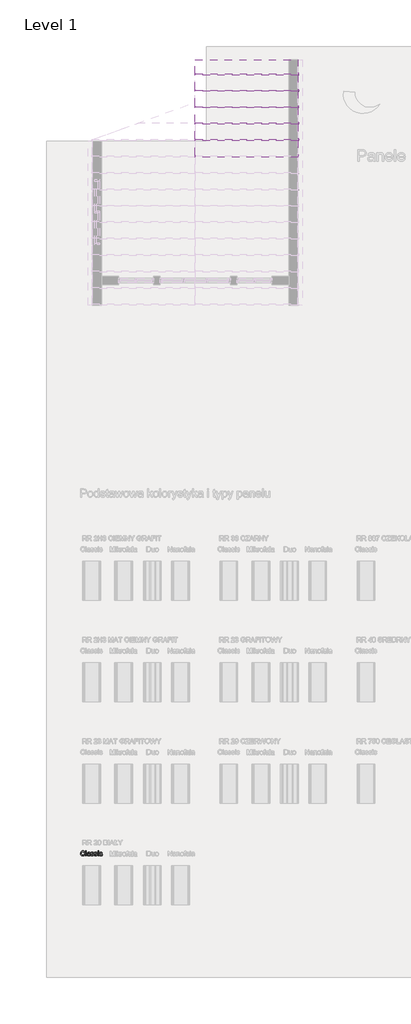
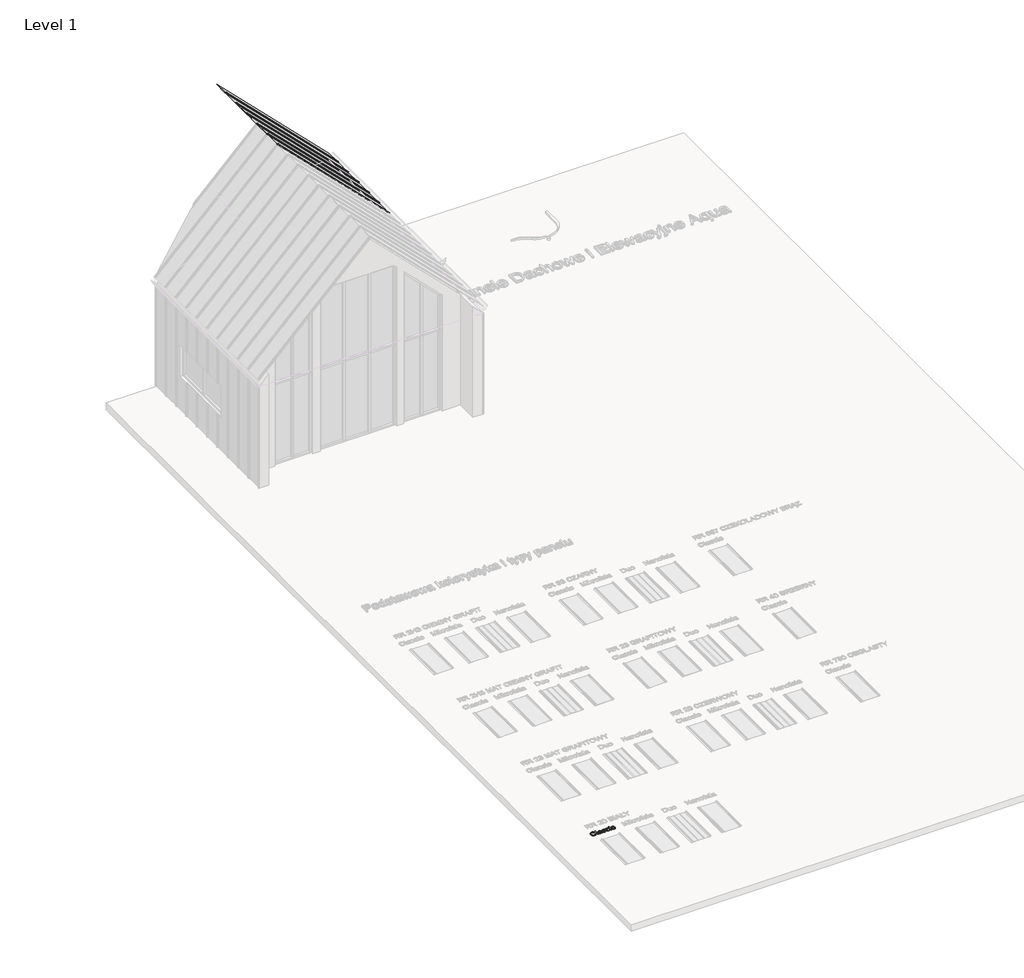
# One storey, part 7 of 22: 15 proxies.
"""IFC4 building model written with IfcOpenShell, lengths in millimetres."""

from ifc_helpers import new_model, si_unit, point, frame, frame_2d, origin, place, context, project, spatial, polyline, circle_curve, trimmed, segment, composite_curve, outline, extrude, transform, mapped, element, save
from components import aqua_579f6fc6, aqua_49a7eeef

model = new_model("IFC4")

# Units and contexts
model_context = context("Model", 3, world=origin())
ifc_project = project(units=[si_unit("LENGTHUNIT", "METRE", prefix="MILLI")], contexts=[model_context])

# Site, building, storey
site = spatial("IfcSite", under=ifc_project)
building = spatial("IfcBuilding", under=site)
storey = spatial("IfcBuildingStorey", under=building, Name="Level 1", Elevation=0.0)

# Proxies
placement = place(None, origin())
element("IfcBuildingElementProxy", 1, Name="150", ObjectType="150", at=placement, inside=storey, context=model_context, shape_type="SweptSolid", body=[
    extrude(outline(polyline([(-8679.0085992, -8117.1818641), (-8660.1730411, -8122.0379064), (-8668.8642532, -8143.986666), (-8682.5034782, -8160.0217224), (-8700.4193314, -8169.8303761), (-8721.9404281, -8173.0999274), (-8743.7880201, -8170.6259209), (-8761.1382547, -8163.2039017), (-8774.4371888, -8151.091387), (-8784.1308794, -8134.5458943), (-8790.049181, -8115.0941338), (-8792.0219482, -8094.2628158), (-8789.7916636, -8072.2910636), (-8783.1008098, -8053.3175497), (-8772.2988747, -8037.9446809), (-8757.7353462, -8026.7748638), (-8740.4632865, -8019.9736454), (-8721.5357579, -8017.7065726), (-8700.8837824, -8020.6404315), (-8683.8094593, -8029.4420082), (-8670.8462175, -8043.5686769), (-8662.5274859, -8062.4778114), (-8681.363044, -8066.9659718), (-8687.8929494, -8053.2301778), (-8696.8140878, -8043.8078002), (-8708.2368238, -8038.3585481), (-8722.2715219, -8036.5421308), (-8738.4491326, -8038.5562847), (-8751.7388697, -8044.5987464), (-8761.8234349, -8054.0349196), (-8768.38553, -8066.2302078), (-8773.18639, -8094.2260276), (-8771.7654458, -8111.626846), (-8767.5026132, -8126.6732196), (-8760.2369438, -8138.7903328), (-8749.8074892, -8147.40337), (-8737.3040999, -8152.5491194), (-8723.8166263, -8154.2643692), (-8708.0942695, -8151.9283185), (-8694.9930719, -8144.9201665), (-8685.1016448, -8133.3134896), (-8679.0085992, -8117.1818641)])), frame((0.0, 0.0, 600.0), z_axis=(0.0, 0.0, 1.0), x_axis=(1.0, 0.0, 0.0)), (0.0, 0.0, 1.0), 10.0),
    extrude(outline(polyline([(-8636.6285934, -8170.7454826), (-8636.6285934, -8020.0610174), (-8617.7930352, -8020.0610174), (-8617.7930352, -8170.7454826), (-8636.6285934, -8170.7454826)])), frame((0.0, 0.0, 600.0), z_axis=(0.0, 0.0, 1.0), x_axis=(1.0, 0.0, 0.0)), (0.0, 0.0, 1.0), 10.0),
    extrude(outline(polyline([(-8518.9063549, -8156.618814), (-8537.171696, -8169.3843192), (-8557.3500234, -8173.0999274), (-8573.0907743, -8170.8650442), (-8584.7020498, -8164.1603949), (-8591.8619531, -8153.9792607), (-8594.2485875, -8141.314923), (-8590.643344, -8126.4157022), (-8581.1703826, -8115.5999715), (-8567.9818131, -8109.419554), (-8551.6846407, -8106.5868626), (-8519.0167195, -8100.1121395), (-8518.9063549, -8095.9182848), (-8520.203139, -8087.5121812), (-8524.0934911, -8082.0123454), (-8532.7939003, -8077.9288552), (-8544.915612, -8076.5676918), (-8563.9718993, -8080.1913295), (-8573.0585846, -8093.0488052), (-8591.8941428, -8090.6943604), (-8583.7455566, -8072.3002607), (-8567.3380196, -8061.5213182), (-8542.4875908, -8057.7321337), (-8519.660513, -8061.0798598), (-8506.7662491, -8069.4859634), (-8500.9905018, -8082.2698628), (-8500.0707968, -8098.7509761), (-8500.0707968, -8122.1850592), (-8499.1143036, -8154.9081627), (-8495.3619072, -8170.7454826), (-8514.1974654, -8170.7454826), (-8518.9063549, -8156.618814)]), holes=[polyline([(-8518.9063549, -8118.9476977), (-8549.2934077, -8124.723445), (-8565.4986096, -8127.7768656), (-8572.8378554, -8132.7432725), (-8575.4130294, -8139.9905478), (-8569.802829, -8150.1808791), (-8553.3401097, -8154.2643692), (-8534.2838223, -8149.7578148), (-8521.9965637, -8138.8501136), (-8519.0167195, -8124.2819866), (-8518.9063549, -8118.9476977)])]), frame((0.0, 0.0, 600.0), z_axis=(0.0, 0.0, 1.0), x_axis=(1.0, 0.0, 0.0)), (0.0, 0.0, 1.0), 10.0),
    extrude(outline(polyline([(-8481.2352386, -8137.7832558), (-8462.3996805, -8135.4288111), (-8459.4290334, -8143.4854268), (-8453.6808772, -8149.4083269), (-8433.7048849, -8154.2643692), (-8414.5014447, -8149.8129971), (-8408.2474508, -8139.3651484), (-8409.8201463, -8134.5642884), (-8414.5382329, -8130.9038625), (-8433.9256141, -8125.5327854), (-8462.2893159, -8116.3173414), (-8474.668545, -8105.5567931), (-8478.8807939, -8090.3632666), (-8475.4962795, -8076.3285685), (-8466.2624414, -8065.6048084), (-8454.2878825, -8060.0313961), (-8438.0826806, -8057.7321337), (-8415.1636323, -8061.4293477), (-8400.5955053, -8071.435738), (-8394.1207822, -8088.3399157), (-8412.9563403, -8090.6943604), (-8420.0380687, -8080.3016941), (-8436.6111526, -8076.5676918), (-8454.6373704, -8080.1361472), (-8460.0452357, -8088.4502803), (-8457.8011555, -8093.931722), (-8450.7746094, -8098.0887885), (-8434.5510134, -8102.0987023), (-8406.9046815, -8110.9646584), (-8394.0655999, -8121.0078368), (-8389.4118926, -8137.3785856), (-8394.8749403, -8155.4048034), (-8410.6386838, -8168.4830083), (-8433.9624023, -8173.0999274), (-8452.9543103, -8170.8742413), (-8466.8142644, -8164.1971831), (-8476.0664966, -8153.1423291), (-8481.2352386, -8137.7832558)])), frame((0.0, 0.0, 600.0), z_axis=(0.0, 0.0, 1.0), x_axis=(1.0, 0.0, 0.0)), (0.0, 0.0, 1.0), 10.0),
    extrude(outline(polyline([(-8375.285224, -8137.7832558), (-8356.4496659, -8135.4288111), (-8353.4790188, -8143.4854268), (-8347.7308626, -8149.4083269), (-8327.7548702, -8154.2643692), (-8308.5514301, -8149.8129971), (-8302.2974362, -8139.3651484), (-8303.8701317, -8134.5642884), (-8308.5882183, -8130.9038625), (-8327.9755994, -8125.5327854), (-8356.3393013, -8116.3173414), (-8368.7185304, -8105.5567931), (-8372.9307793, -8090.3632666), (-8369.5462649, -8076.3285685), (-8360.3124268, -8065.6048084), (-8348.3378679, -8060.0313961), (-8332.132666, -8057.7321337), (-8309.2136177, -8061.4293477), (-8294.6454907, -8071.435738), (-8288.1707676, -8088.3399157), (-8307.0063257, -8090.6943604), (-8314.0880541, -8080.3016941), (-8330.661138, -8076.5676918), (-8348.6873558, -8080.1361472), (-8354.0952211, -8088.4502803), (-8351.8511409, -8093.931722), (-8344.8245948, -8098.0887885), (-8328.6009988, -8102.0987023), (-8300.9546669, -8110.9646584), (-8288.1155853, -8121.0078368), (-8283.461878, -8137.3785856), (-8288.9249257, -8155.4048034), (-8304.6886691, -8168.4830083), (-8328.0123876, -8173.0999274), (-8347.0042956, -8170.8742413), (-8360.8642498, -8164.1971831), (-8370.116482, -8153.1423291), (-8375.285224, -8137.7832558)])), frame((0.0, 0.0, 600.0), z_axis=(0.0, 0.0, 1.0), x_axis=(1.0, 0.0, 0.0)), (0.0, 0.0, 1.0), 10.0),
    extrude(outline(polyline([(-8262.2718751, -8038.8965755), (-8262.2718751, -8020.0610174), (-8243.4363169, -8020.0610174), (-8243.4363169, -8038.8965755), (-8262.2718751, -8038.8965755)])), frame((0.0, 0.0, 600.0), z_axis=(0.0, 0.0, 1.0), x_axis=(1.0, 0.0, 0.0)), (0.0, 0.0, 1.0), 10.0),
    extrude(outline(polyline([(-8262.2718751, -8170.7454826), (-8262.2718751, -8060.0865784), (-8243.4363169, -8060.0865784), (-8243.4363169, -8170.7454826), (-8262.2718751, -8170.7454826)])), frame((0.0, 0.0, 600.0), z_axis=(0.0, 0.0, 1.0), x_axis=(1.0, 0.0, 0.0)), (0.0, 0.0, 1.0), 10.0),
    extrude(outline(polyline([(-8144.5496366, -8130.7199215), (-8125.7140785, -8133.0743663), (-8130.965594, -8149.8267926), (-8140.8340285, -8162.4865318), (-8154.39048, -8170.4465785), (-8170.7060465, -8173.0999274), (-8190.7418197, -8169.3981148), (-8206.4089941, -8158.2926771), (-8216.5211505, -8140.2710578), (-8219.8918693, -8115.8207007), (-8218.452531, -8099.0590773), (-8214.134516, -8084.532337), (-8206.8688466, -8072.8014999), (-8196.5865449, -8064.427586), (-8184.2854906, -8059.4059968), (-8170.9635639, -8057.7321337), (-8155.0480691, -8060.0313961), (-8142.3239506, -8066.9291836), (-8133.1958786, -8078.0576139), (-8128.0685233, -8093.0488052), (-8146.9040814, -8095.40325), (-8155.6412788, -8081.2949755), (-8170.8164111, -8076.5676918), (-8182.9887066, -8078.8945454), (-8192.6502075, -8085.8751063), (-8198.9547852, -8097.8864535), (-8201.0563111, -8115.3056659), (-8199.0007705, -8132.9594032), (-8192.8341485, -8145.012137), (-8183.3473916, -8151.9513112), (-8171.3314459, -8154.2643692), (-8161.5779745, -8152.8204324), (-8153.5811396, -8148.4886219), (-8147.7640056, -8141.1585731), (-8144.5496366, -8130.7199215)])), frame((0.0, 0.0, 600.0), z_axis=(0.0, 0.0, 1.0), x_axis=(1.0, 0.0, 0.0)), (0.0, 0.0, 1.0), 10.0),
])
element("IfcBuildingElementProxy", 2, Name="AQUAPLAST - Panel Dachowy i Elewacyjny Aqua : Aqua", ObjectType="AQUAPLAST - Panel Dachowy i Elewacyjny Aqua : Aqua", at=placement, inside=storey, context=model_context, shape_type="SweptSolid", body=[
    extrude(outline(polyline([(0.0, 432.2000503), (4454.0, 432.2000503), (4454.0, 0.0), (0.0, 0.0), (0.0, 432.2000503)])), frame((-5287.0692136, 13255.4302375, 6945.9959293), z_axis=(0.7071067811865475, 0.0, 0.7071067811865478), x_axis=(0.7071067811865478, 0.0, -0.7071067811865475)), (0.0, 0.0, 1.0), 0.8),
    extrude(outline(composite_curve([segment(polyline([(1.6, -36.6), (0.8, -40.1), (0.0, -40.1), (0.8000601, -36.6), (0.8000601, -12.7000752)]), True, "CONTINUOUS"), segment(trimmed(circle_curve(frame_2d((1.2999699, -12.7000752)), 0.4999098), [point((0.8000601, -12.7000752))], [point((1.2999699, -12.2001654))], False, "CARTESIAN"), True, "CONTINUOUS"), segment(polyline([(1.2999699, -12.2001654), (23.7003195, -12.2001654)]), True, "CONTINUOUS"), segment(trimmed(circle_curve(frame_2d((23.7003195, -11.6998422)), 0.5003233), [point((23.7003195, -12.2001654))], [point((24.2006428, -11.6998422))], True, "CARTESIAN"), True, "CONTINUOUS"), segment(polyline([(24.2006428, -11.6998422), (24.2006428, -1.2033228)]), True, "CONTINUOUS"), segment(trimmed(circle_curve(frame_2d((23.6993591, -1.2033228)), 0.5012837), [point((24.2006428, -1.2033228))], [point((23.6993591, -0.7020391))], True, "CARTESIAN"), True, "CONTINUOUS"), segment(polyline([(23.6993591, -0.7020391), (9.7850119, -0.7020391)]), True, "CONTINUOUS"), segment(trimmed(circle_curve(frame_2d((9.7850119, -1.6460516)), 0.9440125), [point((9.7850119, -0.7020391))], [point((8.9478643, -1.2097679))], True, "CARTESIAN"), True, "CONTINUOUS"), segment(trimmed(circle_curve(frame_2d((5.4137846, -0.6808077)), 3.5734462), [point((8.9478643, -1.2097679))], [point((1.8403383, -0.6808077))], False, "CARTESIAN"), True, "CONTINUOUS"), segment(polyline([(1.8403383, -0.6808077), (2.6405793, -0.6808077)]), True, "CONTINUOUS"), segment(trimmed(circle_curve(frame_2d((5.3847863, -0.6808077)), 2.7442071), [point((2.6405793, -0.6808077))], [point((8.1289934, -0.6808077))], True, "CARTESIAN"), True, "CONTINUOUS"), segment(trimmed(circle_curve(frame_2d((8.8039224, -0.6749544)), 0.6749543), [point((8.1289934, -0.6808077))], [point((8.8039224, 0.0))], False, "CARTESIAN"), True, "CONTINUOUS"), segment(polyline([(8.8039224, 0.0), (24.4999999, 0.0)]), True, "CONTINUOUS"), segment(trimmed(circle_curve(frame_2d((24.4999999, -0.5)), 0.5), [point((24.4999999, 0.0))], [point((25.0, -0.5))], False, "CARTESIAN"), True, "CONTINUOUS"), segment(polyline([(25.0, -0.5), (25.0, -12.5)]), True, "CONTINUOUS"), segment(trimmed(circle_curve(frame_2d((24.4999999, -12.5)), 0.5), [point((25.0, -12.5))], [point((24.4999999, -13.0))], False, "CARTESIAN"), True, "CONTINUOUS"), segment(polyline([(24.4999999, -13.0), (2.0999999, -13.0)]), True, "CONTINUOUS"), segment(trimmed(circle_curve(frame_2d((2.0999999, -13.5)), 0.5), [point((2.0999999, -13.0))], [point((1.6, -13.5))], True, "CARTESIAN"), True, "CONTINUOUS"), segment(polyline([(1.6, -13.5), (1.6, -36.6)]), True, "CONTINUOUS")], self_intersect=False)), frame((-2137.6156102, 13727.7302878, 3796.5423259), z_axis=(-0.7071067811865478, 0.0, 0.7071067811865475), x_axis=(0.7071067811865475, 0.0, 0.7071067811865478)), (0.0, 0.0, 1.0), 4454.0),
    extrude(outline(composite_curve([segment(polyline([(0.8, 0.0), (0.0, 0.0), (0.0, 31.2652327)]), True, "CONTINUOUS"), segment(trimmed(circle_curve(frame_2d((0.7400208, 31.2652327)), 0.7400208), [point((0.0, 31.2652327))], [point((0.6241817, 31.9961308))], False, "CARTESIAN"), True, "CONTINUOUS"), segment(polyline([(0.6241817, 31.9961308), (18.4803326, 34.8261302)]), True, "CONTINUOUS"), segment(trimmed(circle_curve(frame_2d((18.1818617, 36.709361)), 1.9067363), [point((18.4803326, 34.8261302))], [point((19.1352299, 38.3606431))], True, "CARTESIAN"), True, "CONTINUOUS"), segment(polyline([(19.1352299, 38.3606431), (11.8934079, 41.2724068)]), True, "CONTINUOUS"), segment(trimmed(circle_curve(frame_2d((11.2676679, 39.7161343)), 1.6773594), [point((11.8934079, 41.2724068))], [point((9.7513873, 40.4333707))], True, "CARTESIAN"), True, "CONTINUOUS"), segment(trimmed(circle_curve(frame_2d((5.5014361, 42.4436979)), 4.7014361), [point((9.7513873, 40.4333707))], [point((0.8, 42.4436979))], False, "CARTESIAN"), True, "CONTINUOUS"), segment(polyline([(0.8, 42.4436979), (0.8, 69.1999497), (0.0, 72.6999497), (0.8, 72.6999497), (1.6, 69.1999497), (1.6, 42.2845224)]), True, "CONTINUOUS"), segment(trimmed(circle_curve(frame_2d((5.4667311, 42.2845224)), 3.8667311), [point((1.6, 42.2845224))], [point((9.0024094, 40.7190866))], True, "CARTESIAN"), True, "CONTINUOUS"), segment(trimmed(circle_curve(frame_2d((11.2676679, 39.7161343)), 2.4773594), [point((9.0024094, 40.7190866))], [point((12.1941629, 42.0137236))], False, "CARTESIAN"), True, "CONTINUOUS"), segment(polyline([(12.1941629, 42.0137236), (19.5352299, 39.0534634)]), True, "CONTINUOUS"), segment(trimmed(circle_curve(frame_2d((18.1818617, 36.709361)), 2.7067363), [point((19.5352299, 39.0534634))], [point((18.7653553, 34.0662651))], False, "CARTESIAN"), True, "CONTINUOUS"), segment(polyline([(18.7653553, 34.0662651), (1.3501316, 31.0333084)]), True, "CONTINUOUS"), segment(trimmed(circle_curve(frame_2d((1.4640676, 30.379088)), 0.6640676), [point((1.3501316, 31.0333084))], [point((0.8, 30.379088))], True, "CARTESIAN"), True, "CONTINUOUS"), segment(polyline([(0.8, 30.379088), (0.8, 0.0)]), True, "CONTINUOUS")], self_intersect=False)), frame((-2137.6156102, 13182.7302878, 3796.5423259), z_axis=(-0.7071067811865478, 0.0, 0.7071067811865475), x_axis=(0.7071067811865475, 0.0, 0.7071067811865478)), (0.0, 0.0, 1.0), 4454.0),
])
element("IfcBuildingElementProxy", 3, Name="AQUAPLAST - Panel Dachowy i Elewacyjny Aqua : Aqua", ObjectType="AQUAPLAST - Panel Dachowy i Elewacyjny Aqua : Aqua", at=placement, inside=storey, context=model_context, shape_type="SweptSolid", body=[
    extrude(outline(polyline([(0.0, 432.2000503), (4454.0, 432.2000503), (4454.0, 0.0), (0.0, 0.0), (0.0, 432.2000503)])), frame((-5287.0692136, 13757.4302375, 6945.9959293), z_axis=(0.7071067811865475, 0.0, 0.7071067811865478), x_axis=(0.7071067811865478, 0.0, -0.7071067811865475)), (0.0, 0.0, 1.0), 0.8),
    extrude(outline(composite_curve([segment(polyline([(1.6, -36.6), (0.8, -40.1), (0.0, -40.1), (0.8000601, -36.6), (0.8000601, -12.7000752)]), True, "CONTINUOUS"), segment(trimmed(circle_curve(frame_2d((1.2999699, -12.7000752)), 0.4999098), [point((0.8000601, -12.7000752))], [point((1.2999699, -12.2001654))], False, "CARTESIAN"), True, "CONTINUOUS"), segment(polyline([(1.2999699, -12.2001654), (23.7003195, -12.2001654)]), True, "CONTINUOUS"), segment(trimmed(circle_curve(frame_2d((23.7003195, -11.6998422)), 0.5003233), [point((23.7003195, -12.2001654))], [point((24.2006428, -11.6998422))], True, "CARTESIAN"), True, "CONTINUOUS"), segment(polyline([(24.2006428, -11.6998422), (24.2006428, -1.2033228)]), True, "CONTINUOUS"), segment(trimmed(circle_curve(frame_2d((23.6993591, -1.2033228)), 0.5012837), [point((24.2006428, -1.2033228))], [point((23.6993591, -0.7020391))], True, "CARTESIAN"), True, "CONTINUOUS"), segment(polyline([(23.6993591, -0.7020391), (9.7850119, -0.7020391)]), True, "CONTINUOUS"), segment(trimmed(circle_curve(frame_2d((9.7850119, -1.6460516)), 0.9440125), [point((9.7850119, -0.7020391))], [point((8.9478643, -1.2097679))], True, "CARTESIAN"), True, "CONTINUOUS"), segment(trimmed(circle_curve(frame_2d((5.4137846, -0.6808077)), 3.5734462), [point((8.9478643, -1.2097679))], [point((1.8403383, -0.6808077))], False, "CARTESIAN"), True, "CONTINUOUS"), segment(polyline([(1.8403383, -0.6808077), (2.6405793, -0.6808077)]), True, "CONTINUOUS"), segment(trimmed(circle_curve(frame_2d((5.3847863, -0.6808077)), 2.7442071), [point((2.6405793, -0.6808077))], [point((8.1289934, -0.6808077))], True, "CARTESIAN"), True, "CONTINUOUS"), segment(trimmed(circle_curve(frame_2d((8.8039224, -0.6749544)), 0.6749543), [point((8.1289934, -0.6808077))], [point((8.8039224, 0.0))], False, "CARTESIAN"), True, "CONTINUOUS"), segment(polyline([(8.8039224, 0.0), (24.4999999, 0.0)]), True, "CONTINUOUS"), segment(trimmed(circle_curve(frame_2d((24.4999999, -0.5)), 0.5), [point((24.4999999, 0.0))], [point((25.0, -0.5))], False, "CARTESIAN"), True, "CONTINUOUS"), segment(polyline([(25.0, -0.5), (25.0, -12.5)]), True, "CONTINUOUS"), segment(trimmed(circle_curve(frame_2d((24.4999999, -12.5)), 0.5), [point((25.0, -12.5))], [point((24.4999999, -13.0))], False, "CARTESIAN"), True, "CONTINUOUS"), segment(polyline([(24.4999999, -13.0), (2.0999999, -13.0)]), True, "CONTINUOUS"), segment(trimmed(circle_curve(frame_2d((2.0999999, -13.5)), 0.5), [point((2.0999999, -13.0))], [point((1.6, -13.5))], True, "CARTESIAN"), True, "CONTINUOUS"), segment(polyline([(1.6, -13.5), (1.6, -36.6)]), True, "CONTINUOUS")], self_intersect=False)), frame((-2137.6156102, 14229.7302878, 3796.5423259), z_axis=(-0.7071067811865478, 0.0, 0.7071067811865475), x_axis=(0.7071067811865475, 0.0, 0.7071067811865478)), (0.0, 0.0, 1.0), 4454.0),
    extrude(outline(composite_curve([segment(polyline([(0.8, 0.0), (0.0, 0.0), (0.0, 31.2652327)]), True, "CONTINUOUS"), segment(trimmed(circle_curve(frame_2d((0.7400208, 31.2652327)), 0.7400208), [point((0.0, 31.2652327))], [point((0.6241817, 31.9961308))], False, "CARTESIAN"), True, "CONTINUOUS"), segment(polyline([(0.6241817, 31.9961308), (18.4803326, 34.8261302)]), True, "CONTINUOUS"), segment(trimmed(circle_curve(frame_2d((18.1818617, 36.709361)), 1.9067363), [point((18.4803326, 34.8261302))], [point((19.1352299, 38.3606431))], True, "CARTESIAN"), True, "CONTINUOUS"), segment(polyline([(19.1352299, 38.3606431), (11.8934079, 41.2724068)]), True, "CONTINUOUS"), segment(trimmed(circle_curve(frame_2d((11.2676679, 39.7161343)), 1.6773594), [point((11.8934079, 41.2724068))], [point((9.7513873, 40.4333707))], True, "CARTESIAN"), True, "CONTINUOUS"), segment(trimmed(circle_curve(frame_2d((5.5014361, 42.4436979)), 4.7014361), [point((9.7513873, 40.4333707))], [point((0.8, 42.4436979))], False, "CARTESIAN"), True, "CONTINUOUS"), segment(polyline([(0.8, 42.4436979), (0.8, 69.1999497), (0.0, 72.6999497), (0.8, 72.6999497), (1.6, 69.1999497), (1.6, 42.2845224)]), True, "CONTINUOUS"), segment(trimmed(circle_curve(frame_2d((5.4667311, 42.2845224)), 3.8667311), [point((1.6, 42.2845224))], [point((9.0024094, 40.7190866))], True, "CARTESIAN"), True, "CONTINUOUS"), segment(trimmed(circle_curve(frame_2d((11.2676679, 39.7161343)), 2.4773594), [point((9.0024094, 40.7190866))], [point((12.1941629, 42.0137236))], False, "CARTESIAN"), True, "CONTINUOUS"), segment(polyline([(12.1941629, 42.0137236), (19.5352299, 39.0534634)]), True, "CONTINUOUS"), segment(trimmed(circle_curve(frame_2d((18.1818617, 36.709361)), 2.7067363), [point((19.5352299, 39.0534634))], [point((18.7653553, 34.0662651))], False, "CARTESIAN"), True, "CONTINUOUS"), segment(polyline([(18.7653553, 34.0662651), (1.3501316, 31.0333084)]), True, "CONTINUOUS"), segment(trimmed(circle_curve(frame_2d((1.4640676, 30.379088)), 0.6640676), [point((1.3501316, 31.0333084))], [point((0.8, 30.379088))], True, "CARTESIAN"), True, "CONTINUOUS"), segment(polyline([(0.8, 30.379088), (0.8, 0.0)]), True, "CONTINUOUS")], self_intersect=False)), frame((-2137.6156102, 13684.7302878, 3796.5423259), z_axis=(-0.7071067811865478, 0.0, 0.7071067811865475), x_axis=(0.7071067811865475, 0.0, 0.7071067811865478)), (0.0, 0.0, 1.0), 4454.0),
])
element("IfcBuildingElementProxy", 4, Name="AQUAPLAST - Panel Dachowy i Elewacyjny Aqua : Aqua", ObjectType="AQUAPLAST - Panel Dachowy i Elewacyjny Aqua : Aqua", at=placement, inside=storey, context=model_context, shape_type="SweptSolid", body=[
    extrude(outline(polyline([(0.0, 432.2000503), (4454.0, 432.2000503), (4454.0, 0.0), (0.0, 0.0), (0.0, 432.2000503)])), frame((-5287.0692136, 14259.4302375, 6945.9959293), z_axis=(0.7071067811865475, 0.0, 0.7071067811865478), x_axis=(0.7071067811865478, 0.0, -0.7071067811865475)), (0.0, 0.0, 1.0), 0.8),
    extrude(outline(composite_curve([segment(polyline([(1.6, -36.6), (0.8, -40.1), (0.0, -40.1), (0.8000601, -36.6), (0.8000601, -12.7000752)]), True, "CONTINUOUS"), segment(trimmed(circle_curve(frame_2d((1.2999699, -12.7000752)), 0.4999098), [point((0.8000601, -12.7000752))], [point((1.2999699, -12.2001654))], False, "CARTESIAN"), True, "CONTINUOUS"), segment(polyline([(1.2999699, -12.2001654), (23.7003195, -12.2001654)]), True, "CONTINUOUS"), segment(trimmed(circle_curve(frame_2d((23.7003195, -11.6998422)), 0.5003233), [point((23.7003195, -12.2001654))], [point((24.2006428, -11.6998422))], True, "CARTESIAN"), True, "CONTINUOUS"), segment(polyline([(24.2006428, -11.6998422), (24.2006428, -1.2033228)]), True, "CONTINUOUS"), segment(trimmed(circle_curve(frame_2d((23.6993591, -1.2033228)), 0.5012837), [point((24.2006428, -1.2033228))], [point((23.6993591, -0.7020391))], True, "CARTESIAN"), True, "CONTINUOUS"), segment(polyline([(23.6993591, -0.7020391), (9.7850119, -0.7020391)]), True, "CONTINUOUS"), segment(trimmed(circle_curve(frame_2d((9.7850119, -1.6460516)), 0.9440125), [point((9.7850119, -0.7020391))], [point((8.9478643, -1.2097679))], True, "CARTESIAN"), True, "CONTINUOUS"), segment(trimmed(circle_curve(frame_2d((5.4137846, -0.6808077)), 3.5734462), [point((8.9478643, -1.2097679))], [point((1.8403383, -0.6808077))], False, "CARTESIAN"), True, "CONTINUOUS"), segment(polyline([(1.8403383, -0.6808077), (2.6405793, -0.6808077)]), True, "CONTINUOUS"), segment(trimmed(circle_curve(frame_2d((5.3847863, -0.6808077)), 2.7442071), [point((2.6405793, -0.6808077))], [point((8.1289934, -0.6808077))], True, "CARTESIAN"), True, "CONTINUOUS"), segment(trimmed(circle_curve(frame_2d((8.8039224, -0.6749544)), 0.6749543), [point((8.1289934, -0.6808077))], [point((8.8039224, 0.0))], False, "CARTESIAN"), True, "CONTINUOUS"), segment(polyline([(8.8039224, 0.0), (24.4999999, 0.0)]), True, "CONTINUOUS"), segment(trimmed(circle_curve(frame_2d((24.4999999, -0.5)), 0.5), [point((24.4999999, 0.0))], [point((25.0, -0.5))], False, "CARTESIAN"), True, "CONTINUOUS"), segment(polyline([(25.0, -0.5), (25.0, -12.5)]), True, "CONTINUOUS"), segment(trimmed(circle_curve(frame_2d((24.4999999, -12.5)), 0.5), [point((25.0, -12.5))], [point((24.4999999, -13.0))], False, "CARTESIAN"), True, "CONTINUOUS"), segment(polyline([(24.4999999, -13.0), (2.0999999, -13.0)]), True, "CONTINUOUS"), segment(trimmed(circle_curve(frame_2d((2.0999999, -13.5)), 0.5), [point((2.0999999, -13.0))], [point((1.6, -13.5))], True, "CARTESIAN"), True, "CONTINUOUS"), segment(polyline([(1.6, -13.5), (1.6, -36.6)]), True, "CONTINUOUS")], self_intersect=False)), frame((-2137.6156102, 14731.7302878, 3796.5423259), z_axis=(-0.7071067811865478, 0.0, 0.7071067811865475), x_axis=(0.7071067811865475, 0.0, 0.7071067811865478)), (0.0, 0.0, 1.0), 4454.0),
    extrude(outline(composite_curve([segment(polyline([(0.8, 0.0), (0.0, 0.0), (0.0, 31.2652327)]), True, "CONTINUOUS"), segment(trimmed(circle_curve(frame_2d((0.7400208, 31.2652327)), 0.7400208), [point((0.0, 31.2652327))], [point((0.6241817, 31.9961308))], False, "CARTESIAN"), True, "CONTINUOUS"), segment(polyline([(0.6241817, 31.9961308), (18.4803326, 34.8261302)]), True, "CONTINUOUS"), segment(trimmed(circle_curve(frame_2d((18.1818617, 36.709361)), 1.9067363), [point((18.4803326, 34.8261302))], [point((19.1352299, 38.3606431))], True, "CARTESIAN"), True, "CONTINUOUS"), segment(polyline([(19.1352299, 38.3606431), (11.8934079, 41.2724068)]), True, "CONTINUOUS"), segment(trimmed(circle_curve(frame_2d((11.2676679, 39.7161343)), 1.6773594), [point((11.8934079, 41.2724068))], [point((9.7513873, 40.4333707))], True, "CARTESIAN"), True, "CONTINUOUS"), segment(trimmed(circle_curve(frame_2d((5.5014361, 42.4436979)), 4.7014361), [point((9.7513873, 40.4333707))], [point((0.8, 42.4436979))], False, "CARTESIAN"), True, "CONTINUOUS"), segment(polyline([(0.8, 42.4436979), (0.8, 69.1999497), (0.0, 72.6999497), (0.8, 72.6999497), (1.6, 69.1999497), (1.6, 42.2845224)]), True, "CONTINUOUS"), segment(trimmed(circle_curve(frame_2d((5.4667311, 42.2845224)), 3.8667311), [point((1.6, 42.2845224))], [point((9.0024094, 40.7190866))], True, "CARTESIAN"), True, "CONTINUOUS"), segment(trimmed(circle_curve(frame_2d((11.2676679, 39.7161343)), 2.4773594), [point((9.0024094, 40.7190866))], [point((12.1941629, 42.0137236))], False, "CARTESIAN"), True, "CONTINUOUS"), segment(polyline([(12.1941629, 42.0137236), (19.5352299, 39.0534634)]), True, "CONTINUOUS"), segment(trimmed(circle_curve(frame_2d((18.1818617, 36.709361)), 2.7067363), [point((19.5352299, 39.0534634))], [point((18.7653553, 34.0662651))], False, "CARTESIAN"), True, "CONTINUOUS"), segment(polyline([(18.7653553, 34.0662651), (1.3501316, 31.0333084)]), True, "CONTINUOUS"), segment(trimmed(circle_curve(frame_2d((1.4640676, 30.379088)), 0.6640676), [point((1.3501316, 31.0333084))], [point((0.8, 30.379088))], True, "CARTESIAN"), True, "CONTINUOUS"), segment(polyline([(0.8, 30.379088), (0.8, 0.0)]), True, "CONTINUOUS")], self_intersect=False)), frame((-2137.6156102, 14186.7302878, 3796.5423259), z_axis=(-0.7071067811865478, 0.0, 0.7071067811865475), x_axis=(0.7071067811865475, 0.0, 0.7071067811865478)), (0.0, 0.0, 1.0), 4454.0),
])
element("IfcBuildingElementProxy", 5, Name="AQUAPLAST - Panel Dachowy i Elewacyjny Aqua : Aqua", ObjectType="AQUAPLAST - Panel Dachowy i Elewacyjny Aqua : Aqua", at=placement, inside=storey, context=model_context, shape_type="SweptSolid", body=[
    extrude(outline(polyline([(0.0, 432.2000503), (4454.0, 432.2000503), (4454.0, 0.0), (0.0, 0.0), (0.0, 432.2000503)])), frame((-5287.0692136, 14761.4302375, 6945.9959293), z_axis=(0.7071067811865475, 0.0, 0.7071067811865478), x_axis=(0.7071067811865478, 0.0, -0.7071067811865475)), (0.0, 0.0, 1.0), 0.8),
    extrude(outline(composite_curve([segment(polyline([(1.6, -36.6), (0.8, -40.1), (0.0, -40.1), (0.8000601, -36.6), (0.8000601, -12.7000752)]), True, "CONTINUOUS"), segment(trimmed(circle_curve(frame_2d((1.2999699, -12.7000752)), 0.4999098), [point((0.8000601, -12.7000752))], [point((1.2999699, -12.2001654))], False, "CARTESIAN"), True, "CONTINUOUS"), segment(polyline([(1.2999699, -12.2001654), (23.7003195, -12.2001654)]), True, "CONTINUOUS"), segment(trimmed(circle_curve(frame_2d((23.7003195, -11.6998422)), 0.5003233), [point((23.7003195, -12.2001654))], [point((24.2006428, -11.6998422))], True, "CARTESIAN"), True, "CONTINUOUS"), segment(polyline([(24.2006428, -11.6998422), (24.2006428, -1.2033228)]), True, "CONTINUOUS"), segment(trimmed(circle_curve(frame_2d((23.6993591, -1.2033228)), 0.5012837), [point((24.2006428, -1.2033228))], [point((23.6993591, -0.7020391))], True, "CARTESIAN"), True, "CONTINUOUS"), segment(polyline([(23.6993591, -0.7020391), (9.7850119, -0.7020391)]), True, "CONTINUOUS"), segment(trimmed(circle_curve(frame_2d((9.7850119, -1.6460516)), 0.9440125), [point((9.7850119, -0.7020391))], [point((8.9478643, -1.2097679))], True, "CARTESIAN"), True, "CONTINUOUS"), segment(trimmed(circle_curve(frame_2d((5.4137846, -0.6808077)), 3.5734462), [point((8.9478643, -1.2097679))], [point((1.8403383, -0.6808077))], False, "CARTESIAN"), True, "CONTINUOUS"), segment(polyline([(1.8403383, -0.6808077), (2.6405793, -0.6808077)]), True, "CONTINUOUS"), segment(trimmed(circle_curve(frame_2d((5.3847863, -0.6808077)), 2.7442071), [point((2.6405793, -0.6808077))], [point((8.1289934, -0.6808077))], True, "CARTESIAN"), True, "CONTINUOUS"), segment(trimmed(circle_curve(frame_2d((8.8039224, -0.6749544)), 0.6749543), [point((8.1289934, -0.6808077))], [point((8.8039224, 0.0))], False, "CARTESIAN"), True, "CONTINUOUS"), segment(polyline([(8.8039224, 0.0), (24.4999999, 0.0)]), True, "CONTINUOUS"), segment(trimmed(circle_curve(frame_2d((24.4999999, -0.5)), 0.5), [point((24.4999999, 0.0))], [point((25.0, -0.5))], False, "CARTESIAN"), True, "CONTINUOUS"), segment(polyline([(25.0, -0.5), (25.0, -12.5)]), True, "CONTINUOUS"), segment(trimmed(circle_curve(frame_2d((24.4999999, -12.5)), 0.5), [point((25.0, -12.5))], [point((24.4999999, -13.0))], False, "CARTESIAN"), True, "CONTINUOUS"), segment(polyline([(24.4999999, -13.0), (2.0999999, -13.0)]), True, "CONTINUOUS"), segment(trimmed(circle_curve(frame_2d((2.0999999, -13.5)), 0.5), [point((2.0999999, -13.0))], [point((1.6, -13.5))], True, "CARTESIAN"), True, "CONTINUOUS"), segment(polyline([(1.6, -13.5), (1.6, -36.6)]), True, "CONTINUOUS")], self_intersect=False)), frame((-2137.6156102, 15233.7302878, 3796.5423259), z_axis=(-0.7071067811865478, 0.0, 0.7071067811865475), x_axis=(0.7071067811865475, 0.0, 0.7071067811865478)), (0.0, 0.0, 1.0), 4454.0),
    extrude(outline(composite_curve([segment(polyline([(0.8, 0.0), (0.0, 0.0), (0.0, 31.2652327)]), True, "CONTINUOUS"), segment(trimmed(circle_curve(frame_2d((0.7400208, 31.2652327)), 0.7400208), [point((0.0, 31.2652327))], [point((0.6241817, 31.9961308))], False, "CARTESIAN"), True, "CONTINUOUS"), segment(polyline([(0.6241817, 31.9961308), (18.4803326, 34.8261302)]), True, "CONTINUOUS"), segment(trimmed(circle_curve(frame_2d((18.1818617, 36.709361)), 1.9067363), [point((18.4803326, 34.8261302))], [point((19.1352299, 38.3606431))], True, "CARTESIAN"), True, "CONTINUOUS"), segment(polyline([(19.1352299, 38.3606431), (11.8934079, 41.2724068)]), True, "CONTINUOUS"), segment(trimmed(circle_curve(frame_2d((11.2676679, 39.7161343)), 1.6773594), [point((11.8934079, 41.2724068))], [point((9.7513873, 40.4333707))], True, "CARTESIAN"), True, "CONTINUOUS"), segment(trimmed(circle_curve(frame_2d((5.5014361, 42.4436979)), 4.7014361), [point((9.7513873, 40.4333707))], [point((0.8, 42.4436979))], False, "CARTESIAN"), True, "CONTINUOUS"), segment(polyline([(0.8, 42.4436979), (0.8, 69.1999497), (0.0, 72.6999497), (0.8, 72.6999497), (1.6, 69.1999497), (1.6, 42.2845224)]), True, "CONTINUOUS"), segment(trimmed(circle_curve(frame_2d((5.4667311, 42.2845224)), 3.8667311), [point((1.6, 42.2845224))], [point((9.0024094, 40.7190866))], True, "CARTESIAN"), True, "CONTINUOUS"), segment(trimmed(circle_curve(frame_2d((11.2676679, 39.7161343)), 2.4773594), [point((9.0024094, 40.7190866))], [point((12.1941629, 42.0137236))], False, "CARTESIAN"), True, "CONTINUOUS"), segment(polyline([(12.1941629, 42.0137236), (19.5352299, 39.0534634)]), True, "CONTINUOUS"), segment(trimmed(circle_curve(frame_2d((18.1818617, 36.709361)), 2.7067363), [point((19.5352299, 39.0534634))], [point((18.7653553, 34.0662651))], False, "CARTESIAN"), True, "CONTINUOUS"), segment(polyline([(18.7653553, 34.0662651), (1.3501316, 31.0333084)]), True, "CONTINUOUS"), segment(trimmed(circle_curve(frame_2d((1.4640676, 30.379088)), 0.6640676), [point((1.3501316, 31.0333084))], [point((0.8, 30.379088))], True, "CARTESIAN"), True, "CONTINUOUS"), segment(polyline([(0.8, 30.379088), (0.8, 0.0)]), True, "CONTINUOUS")], self_intersect=False)), frame((-2137.6156102, 14688.7302878, 3796.5423259), z_axis=(-0.7071067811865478, 0.0, 0.7071067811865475), x_axis=(0.7071067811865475, 0.0, 0.7071067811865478)), (0.0, 0.0, 1.0), 4454.0),
])
element("IfcBuildingElementProxy", 6, Name="AQUAPLAST - Panel Dachowy i Elewacyjny Aqua : Aqua", ObjectType="AQUAPLAST - Panel Dachowy i Elewacyjny Aqua : Aqua", at=placement, inside=storey, context=model_context, shape_type="SweptSolid", body=[
    extrude(outline(polyline([(0.0, 432.2000503), (4454.0, 432.2000503), (4454.0, 0.0), (0.0, 0.0), (0.0, 432.2000503)])), frame((-5287.0692136, 15263.4302375, 6945.9959293), z_axis=(0.7071067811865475, 0.0, 0.7071067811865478), x_axis=(0.7071067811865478, 0.0, -0.7071067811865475)), (0.0, 0.0, 1.0), 0.8),
    extrude(outline(composite_curve([segment(polyline([(1.6, -36.6), (0.8, -40.1), (0.0, -40.1), (0.8000601, -36.6), (0.8000601, -12.7000752)]), True, "CONTINUOUS"), segment(trimmed(circle_curve(frame_2d((1.2999699, -12.7000752)), 0.4999098), [point((0.8000601, -12.7000752))], [point((1.2999699, -12.2001654))], False, "CARTESIAN"), True, "CONTINUOUS"), segment(polyline([(1.2999699, -12.2001654), (23.7003195, -12.2001654)]), True, "CONTINUOUS"), segment(trimmed(circle_curve(frame_2d((23.7003195, -11.6998422)), 0.5003233), [point((23.7003195, -12.2001654))], [point((24.2006428, -11.6998422))], True, "CARTESIAN"), True, "CONTINUOUS"), segment(polyline([(24.2006428, -11.6998422), (24.2006428, -1.2033228)]), True, "CONTINUOUS"), segment(trimmed(circle_curve(frame_2d((23.6993591, -1.2033228)), 0.5012837), [point((24.2006428, -1.2033228))], [point((23.6993591, -0.7020391))], True, "CARTESIAN"), True, "CONTINUOUS"), segment(polyline([(23.6993591, -0.7020391), (9.7850119, -0.7020391)]), True, "CONTINUOUS"), segment(trimmed(circle_curve(frame_2d((9.7850119, -1.6460516)), 0.9440125), [point((9.7850119, -0.7020391))], [point((8.9478643, -1.2097679))], True, "CARTESIAN"), True, "CONTINUOUS"), segment(trimmed(circle_curve(frame_2d((5.4137846, -0.6808077)), 3.5734462), [point((8.9478643, -1.2097679))], [point((1.8403383, -0.6808077))], False, "CARTESIAN"), True, "CONTINUOUS"), segment(polyline([(1.8403383, -0.6808077), (2.6405793, -0.6808077)]), True, "CONTINUOUS"), segment(trimmed(circle_curve(frame_2d((5.3847863, -0.6808077)), 2.7442071), [point((2.6405793, -0.6808077))], [point((8.1289934, -0.6808077))], True, "CARTESIAN"), True, "CONTINUOUS"), segment(trimmed(circle_curve(frame_2d((8.8039224, -0.6749544)), 0.6749543), [point((8.1289934, -0.6808077))], [point((8.8039224, 0.0))], False, "CARTESIAN"), True, "CONTINUOUS"), segment(polyline([(8.8039224, 0.0), (24.4999999, 0.0)]), True, "CONTINUOUS"), segment(trimmed(circle_curve(frame_2d((24.4999999, -0.5)), 0.5), [point((24.4999999, 0.0))], [point((25.0, -0.5))], False, "CARTESIAN"), True, "CONTINUOUS"), segment(polyline([(25.0, -0.5), (25.0, -12.5)]), True, "CONTINUOUS"), segment(trimmed(circle_curve(frame_2d((24.4999999, -12.5)), 0.5), [point((25.0, -12.5))], [point((24.4999999, -13.0))], False, "CARTESIAN"), True, "CONTINUOUS"), segment(polyline([(24.4999999, -13.0), (2.0999999, -13.0)]), True, "CONTINUOUS"), segment(trimmed(circle_curve(frame_2d((2.0999999, -13.5)), 0.5), [point((2.0999999, -13.0))], [point((1.6, -13.5))], True, "CARTESIAN"), True, "CONTINUOUS"), segment(polyline([(1.6, -13.5), (1.6, -36.6)]), True, "CONTINUOUS")], self_intersect=False)), frame((-2137.6156102, 15735.7302878, 3796.5423259), z_axis=(-0.7071067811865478, 0.0, 0.7071067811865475), x_axis=(0.7071067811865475, 0.0, 0.7071067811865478)), (0.0, 0.0, 1.0), 4454.0),
    extrude(outline(composite_curve([segment(polyline([(0.8, 0.0), (0.0, 0.0), (0.0, 31.2652327)]), True, "CONTINUOUS"), segment(trimmed(circle_curve(frame_2d((0.7400208, 31.2652327)), 0.7400208), [point((0.0, 31.2652327))], [point((0.6241817, 31.9961308))], False, "CARTESIAN"), True, "CONTINUOUS"), segment(polyline([(0.6241817, 31.9961308), (18.4803326, 34.8261302)]), True, "CONTINUOUS"), segment(trimmed(circle_curve(frame_2d((18.1818617, 36.709361)), 1.9067363), [point((18.4803326, 34.8261302))], [point((19.1352299, 38.3606431))], True, "CARTESIAN"), True, "CONTINUOUS"), segment(polyline([(19.1352299, 38.3606431), (11.8934079, 41.2724068)]), True, "CONTINUOUS"), segment(trimmed(circle_curve(frame_2d((11.2676679, 39.7161343)), 1.6773594), [point((11.8934079, 41.2724068))], [point((9.7513873, 40.4333707))], True, "CARTESIAN"), True, "CONTINUOUS"), segment(trimmed(circle_curve(frame_2d((5.5014361, 42.4436979)), 4.7014361), [point((9.7513873, 40.4333707))], [point((0.8, 42.4436979))], False, "CARTESIAN"), True, "CONTINUOUS"), segment(polyline([(0.8, 42.4436979), (0.8, 69.1999497), (0.0, 72.6999497), (0.8, 72.6999497), (1.6, 69.1999497), (1.6, 42.2845224)]), True, "CONTINUOUS"), segment(trimmed(circle_curve(frame_2d((5.4667311, 42.2845224)), 3.8667311), [point((1.6, 42.2845224))], [point((9.0024094, 40.7190866))], True, "CARTESIAN"), True, "CONTINUOUS"), segment(trimmed(circle_curve(frame_2d((11.2676679, 39.7161343)), 2.4773594), [point((9.0024094, 40.7190866))], [point((12.1941629, 42.0137236))], False, "CARTESIAN"), True, "CONTINUOUS"), segment(polyline([(12.1941629, 42.0137236), (19.5352299, 39.0534634)]), True, "CONTINUOUS"), segment(trimmed(circle_curve(frame_2d((18.1818617, 36.709361)), 2.7067363), [point((19.5352299, 39.0534634))], [point((18.7653553, 34.0662651))], False, "CARTESIAN"), True, "CONTINUOUS"), segment(polyline([(18.7653553, 34.0662651), (1.3501316, 31.0333084)]), True, "CONTINUOUS"), segment(trimmed(circle_curve(frame_2d((1.4640676, 30.379088)), 0.6640676), [point((1.3501316, 31.0333084))], [point((0.8, 30.379088))], True, "CARTESIAN"), True, "CONTINUOUS"), segment(polyline([(0.8, 30.379088), (0.8, 0.0)]), True, "CONTINUOUS")], self_intersect=False)), frame((-2137.6156102, 15190.7302878, 3796.5423259), z_axis=(-0.7071067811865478, 0.0, 0.7071067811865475), x_axis=(0.7071067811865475, 0.0, 0.7071067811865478)), (0.0, 0.0, 1.0), 4454.0),
])
element("IfcBuildingElementProxy", 7, Name="AQUAPLAST - Panel Dachowy i Elewacyjny Aqua : Aqua", ObjectType="AQUAPLAST - Panel Dachowy i Elewacyjny Aqua : Aqua", at=placement, inside=storey, context=model_context, shape_type="SweptSolid", body=[
    extrude(outline(polyline([(0.0, 0.0), (0.0, 399.3000503), (4454.0, 399.3000503), (4454.0, 0.0), (0.0, 0.0)])), frame((-5287.0692136, 15765.4302375, 6945.9959293), z_axis=(0.7071067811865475, 0.0, 0.7071067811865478), x_axis=(0.7071067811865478, 0.0, -0.7071067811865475)), (0.0, 0.0, 1.0), 0.8),
    extrude(outline(composite_curve([segment(polyline([(0.8, 0.0), (0.0, 0.0), (0.0, 31.2652327)]), True, "CONTINUOUS"), segment(trimmed(circle_curve(frame_2d((0.7400208, 31.2652327)), 0.7400208), [point((0.0, 31.2652327))], [point((0.6241817, 31.9961308))], False, "CARTESIAN"), True, "CONTINUOUS"), segment(polyline([(0.6241817, 31.9961308), (18.4803326, 34.8261302)]), True, "CONTINUOUS"), segment(trimmed(circle_curve(frame_2d((18.1818617, 36.709361)), 1.9067363), [point((18.4803326, 34.8261302))], [point((19.1352299, 38.3606431))], True, "CARTESIAN"), True, "CONTINUOUS"), segment(polyline([(19.1352299, 38.3606431), (11.8934079, 41.2724068)]), True, "CONTINUOUS"), segment(trimmed(circle_curve(frame_2d((11.2676679, 39.7161343)), 1.6773594), [point((11.8934079, 41.2724068))], [point((9.7513873, 40.4333707))], True, "CARTESIAN"), True, "CONTINUOUS"), segment(trimmed(circle_curve(frame_2d((5.5014361, 42.4436979)), 4.7014361), [point((9.7513873, 40.4333707))], [point((0.8, 42.4436979))], False, "CARTESIAN"), True, "CONTINUOUS"), segment(polyline([(0.8, 42.4436979), (0.8, 69.1999497), (0.0, 72.6999497), (0.8, 72.6999497), (1.6, 69.1999497), (1.6, 42.2845224)]), True, "CONTINUOUS"), segment(trimmed(circle_curve(frame_2d((5.4667311, 42.2845224)), 3.8667311), [point((1.6, 42.2845224))], [point((9.0024094, 40.7190866))], True, "CARTESIAN"), True, "CONTINUOUS"), segment(trimmed(circle_curve(frame_2d((11.2676679, 39.7161343)), 2.4773594), [point((9.0024094, 40.7190866))], [point((12.1941629, 42.0137236))], False, "CARTESIAN"), True, "CONTINUOUS"), segment(polyline([(12.1941629, 42.0137236), (19.5352299, 39.0534634)]), True, "CONTINUOUS"), segment(trimmed(circle_curve(frame_2d((18.1818617, 36.709361)), 2.7067363), [point((19.5352299, 39.0534634))], [point((18.7653553, 34.0662651))], False, "CARTESIAN"), True, "CONTINUOUS"), segment(polyline([(18.7653553, 34.0662651), (1.3501316, 31.0333084)]), True, "CONTINUOUS"), segment(trimmed(circle_curve(frame_2d((1.4640676, 30.379088)), 0.6640676), [point((1.3501316, 31.0333084))], [point((0.8, 30.379088))], True, "CARTESIAN"), True, "CONTINUOUS"), segment(polyline([(0.8, 30.379088), (0.8, 0.0)]), True, "CONTINUOUS")], self_intersect=False)), frame((-2137.6156102, 15692.7302878, 3796.5423259), z_axis=(-0.7071067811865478, 0.0, 0.7071067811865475), x_axis=(0.7071067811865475, 0.0, 0.7071067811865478)), (0.0, 0.0, 1.0), 4454.0),
])
aqua_shape = aqua_579f6fc6(model_context)
element("IfcBuildingElementProxy", 8, Name="AQUAPLAST - Panel Dachowy i Elewacyjny Aqua : Aqua", ObjectType="AQUAPLAST - Panel Dachowy i Elewacyjny Aqua : Aqua", at=placement, inside=storey, context=model_context, shape_type="MappedRepresentation", body=[
    mapped(aqua_shape, transform((-2152.063183, 12452.1494801, 600.0), x_axis=(0.0, 1.0, 0.0), y_axis=(0.0, 0.0, 1.0), z_axis=(1.0, 0.0, 0.0))),
])
element("IfcBuildingElementProxy", 9, Name="AQUAPLAST - Panel Dachowy i Elewacyjny Aqua : Aqua", ObjectType="AQUAPLAST - Panel Dachowy i Elewacyjny Aqua : Aqua", at=placement, inside=storey, context=model_context, shape_type="MappedRepresentation", body=[
    mapped(aqua_shape, transform((-2152.063183, 12954.1494801, 600.0), x_axis=(0.0, 1.0, 0.0), y_axis=(0.0, 0.0, 1.0), z_axis=(1.0, 0.0, 0.0))),
])
element("IfcBuildingElementProxy", 10, Name="AQUAPLAST - Panel Dachowy i Elewacyjny Aqua : Aqua", ObjectType="AQUAPLAST - Panel Dachowy i Elewacyjny Aqua : Aqua", at=placement, inside=storey, context=model_context, shape_type="MappedRepresentation", body=[
    mapped(aqua_shape, transform((-2152.063183, 13456.1494801, 600.0), x_axis=(0.0, 1.0, 0.0), y_axis=(0.0, 0.0, 1.0), z_axis=(1.0, 0.0, 0.0))),
])
element("IfcBuildingElementProxy", 11, Name="AQUAPLAST - Panel Dachowy i Elewacyjny Aqua : Aqua", ObjectType="AQUAPLAST - Panel Dachowy i Elewacyjny Aqua : Aqua", at=placement, inside=storey, context=model_context, shape_type="MappedRepresentation", body=[
    mapped(aqua_shape, transform((-2152.063183, 13958.1494801, 600.0), x_axis=(0.0, 1.0, 0.0), y_axis=(0.0, 0.0, 1.0), z_axis=(1.0, 0.0, 0.0))),
])
element("IfcBuildingElementProxy", 12, Name="AQUAPLAST - Panel Dachowy i Elewacyjny Aqua : Aqua", ObjectType="AQUAPLAST - Panel Dachowy i Elewacyjny Aqua : Aqua", at=placement, inside=storey, context=model_context, shape_type="MappedRepresentation", body=[
    mapped(aqua_shape, transform((-2152.063183, 14460.1494801, 600.0), x_axis=(0.0, 1.0, 0.0), y_axis=(0.0, 0.0, 1.0), z_axis=(1.0, 0.0, 0.0))),
])
element("IfcBuildingElementProxy", 13, Name="AQUAPLAST - Panel Dachowy i Elewacyjny Aqua : Aqua", ObjectType="AQUAPLAST - Panel Dachowy i Elewacyjny Aqua : Aqua", at=placement, inside=storey, context=model_context, shape_type="MappedRepresentation", body=[
    mapped(aqua_shape, transform((-2152.063183, 14962.1494801, 600.0), x_axis=(0.0, 1.0, 0.0), y_axis=(0.0, 0.0, 1.0), z_axis=(1.0, 0.0, 0.0))),
])
element("IfcBuildingElementProxy", 14, Name="AQUAPLAST - Panel Dachowy i Elewacyjny Aqua : Aqua", ObjectType="AQUAPLAST - Panel Dachowy i Elewacyjny Aqua : Aqua", at=placement, inside=storey, context=model_context, shape_type="MappedRepresentation", body=[
    mapped(aqua_shape, transform((-2152.063183, 15464.1494801, 600.0), x_axis=(0.0, 1.0, 0.0), y_axis=(0.0, 0.0, 1.0), z_axis=(1.0, 0.0, 0.0))),
])
aqua_2_shape = aqua_49a7eeef(model_context)
element("IfcBuildingElementProxy", 15, Name="AQUAPLAST - Panel Dachowy i Elewacyjny Aqua : Aqua", ObjectType="AQUAPLAST - Panel Dachowy i Elewacyjny Aqua : Aqua", at=placement, inside=storey, context=model_context, shape_type="MappedRepresentation", body=[
    mapped(aqua_2_shape, transform((-2152.063183, 15966.1494801, 600.0), x_axis=(0.0, 1.0, 0.0), y_axis=(0.0, 0.0, 1.0), z_axis=(1.0, 0.0, 0.0))),
])

save(model, "model.ifc")
